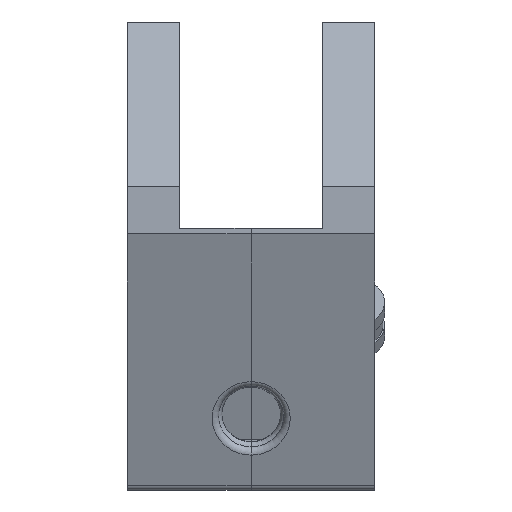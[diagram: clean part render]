
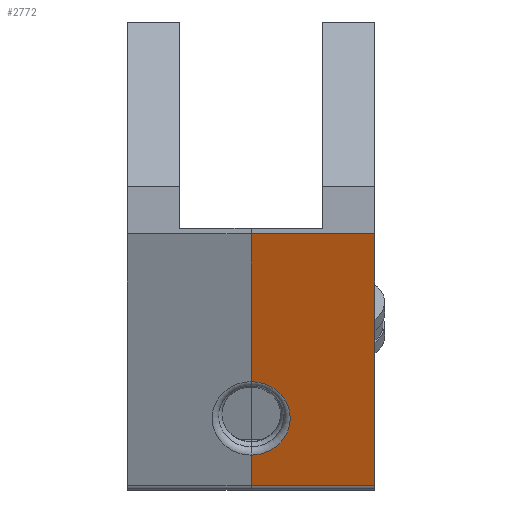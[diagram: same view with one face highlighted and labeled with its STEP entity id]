
A CAD part, left-side view. The second image highlights one B-rep face of the part: STEP entity #2772.
In plain terms, the highlighted planar face has unit normal (-0.94, 0, -0.342).
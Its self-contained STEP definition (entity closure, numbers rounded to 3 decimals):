
#80=CIRCLE('',#2944,6.);
#188=FACE_OUTER_BOUND('',#348,.T.);
#348=EDGE_LOOP('',(#1919,#1920,#1921,#1922,#1923,#1924));
#509=LINE('',#4056,#825);
#512=LINE('',#4078,#828);
#543=LINE('',#4171,#859);
#544=LINE('',#4174,#860);
#545=LINE('',#4175,#861);
#825=VECTOR('',#3220,10.);
#828=VECTOR('',#3245,10.);
#859=VECTOR('',#3328,10.);
#860=VECTOR('',#3331,10.);
#861=VECTOR('',#3332,10.);
#1139=VERTEX_POINT('',#4053);
#1140=VERTEX_POINT('',#4055);
#1147=VERTEX_POINT('',#4073);
#1148=VERTEX_POINT('',#4077);
#1184=VERTEX_POINT('',#4169);
#1185=VERTEX_POINT('',#4173);
#1417=EDGE_CURVE('',#1139,#1140,#509,.T.);
#1426=EDGE_CURVE('',#1140,#1147,#80,.T.);
#1428=EDGE_CURVE('',#1147,#1148,#512,.T.);
#1475=EDGE_CURVE('',#1184,#1139,#543,.T.);
#1476=EDGE_CURVE('',#1185,#1184,#544,.T.);
#1477=EDGE_CURVE('',#1185,#1148,#545,.T.);
#1919=ORIENTED_EDGE('',*,*,#1426,.F.);
#1920=ORIENTED_EDGE('',*,*,#1417,.F.);
#1921=ORIENTED_EDGE('',*,*,#1475,.F.);
#1922=ORIENTED_EDGE('',*,*,#1476,.F.);
#1923=ORIENTED_EDGE('',*,*,#1477,.T.);
#1924=ORIENTED_EDGE('',*,*,#1428,.F.);
#2649=PLANE('',#2973);
#2772=ADVANCED_FACE('',(#188),#2649,.T.);
#2944=AXIS2_PLACEMENT_3D('',#4074,#3239,#3240);
#2973=AXIS2_PLACEMENT_3D('',#4172,#3329,#3330);
#3220=DIRECTION('',(-0.342,0.,0.94));
#3239=DIRECTION('center_axis',(-0.94,0.,-0.342));
#3240=DIRECTION('ref_axis',(0.,-1.,0.));
#3245=DIRECTION('',(-0.342,0.,0.94));
#3328=DIRECTION('',(0.,1.,0.));
#3329=DIRECTION('center_axis',(-0.94,0.,-0.342));
#3330=DIRECTION('ref_axis',(-0.342,0.,0.94));
#3331=DIRECTION('',(0.342,0.,-0.94));
#3332=DIRECTION('',(0.,1.,0.));
#4053=CARTESIAN_POINT('',(-14.793,19.,-42.333));
#4055=CARTESIAN_POINT('',(-16.503,19.,-37.634));
#4056=CARTESIAN_POINT('',(-15.135,19.,-41.393));
#4073=CARTESIAN_POINT('',(-20.608,19.,-26.358));
#4074=CARTESIAN_POINT('Origin',(-18.555,19.,-31.996));
#4077=CARTESIAN_POINT('',(-28.87,19.,-3.657));
#4078=CARTESIAN_POINT('',(-15.135,19.,-41.393));
#4169=CARTESIAN_POINT('',(-14.793,0.,-42.333));
#4171=CARTESIAN_POINT('',(-14.793,0.,-42.333));
#4172=CARTESIAN_POINT('Origin',(-14.451,0.,-43.272));
#4173=CARTESIAN_POINT('',(-28.87,0.,-3.657));
#4174=CARTESIAN_POINT('',(-15.135,0.,-41.393));
#4175=CARTESIAN_POINT('',(-28.87,0.,-3.657));
